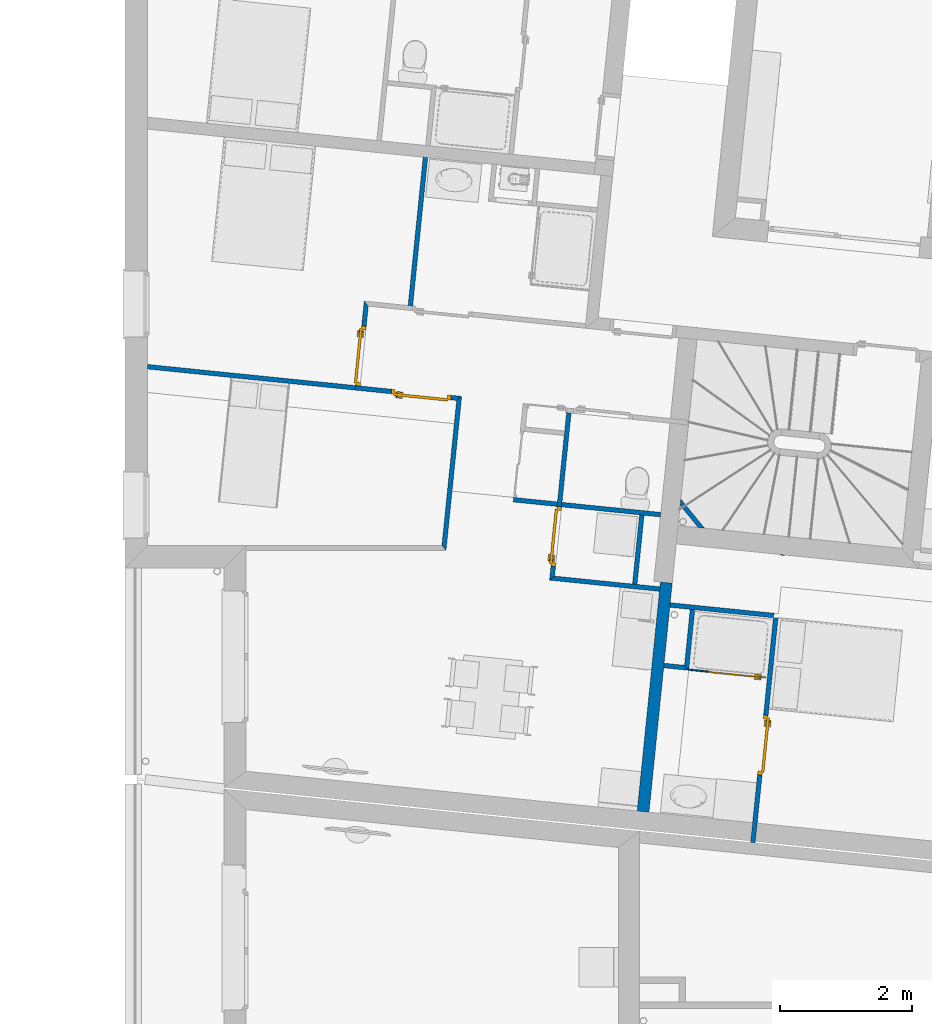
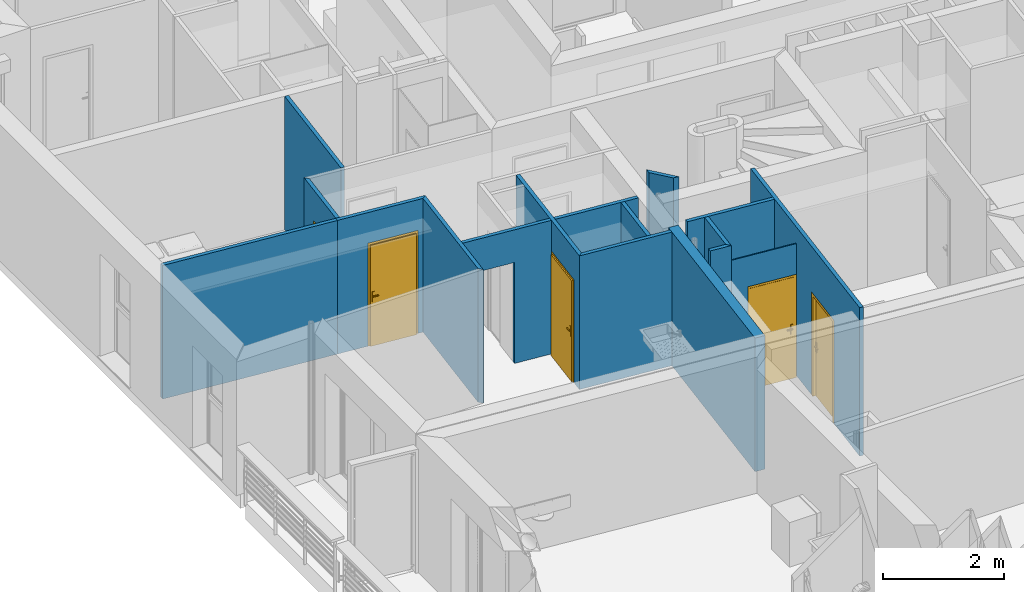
# One storey, part 63 of 171: 16 walls, 5 doors, 7 openings.
"""IFC2X3 building model written with IfcOpenShell, lengths in millimetres."""

from ifc_helpers import new_model, entity, si_unit, converted_unit, derived_unit, money_unit, direction, frame, origin_with_axes, origin_2d_with_axis, place, context, subcontext, project, spatial, polyline, rectangle, outline, extrude, faceted_brep, source, transform, mapped, material, layer, layer_set, layer_usage, type_object, element, fill, save


model = new_model("IFC2X3")

# Units and contexts
model_context = context("Model", 3, precision=0.01, world=origin_with_axes(), true_north=direction((0.0, 1.0)))
body_context = subcontext(model_context, "Body", "Model", "MODEL_VIEW")
ifc_project = project(units=[si_unit("LENGTHUNIT", "METRE", prefix="MILLI"), si_unit("AREAUNIT", "SQUARE_METRE"), si_unit("VOLUMEUNIT", "CUBIC_METRE"), converted_unit("PLANEANGLEUNIT", "DEGREE", entity("IfcPlaneAngleMeasure", 0.0174532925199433), si_unit("PLANEANGLEUNIT", "RADIAN"), dimensions=[0, 0, 0, 0, 0, 0, 0]), money_unit("USD"), converted_unit("TIMEUNIT", "Year", entity("IfcTimeMeasure", 31557600.0), si_unit("TIMEUNIT", "SECOND"), dimensions=[0, 0, 1, 0, 0, 0, 0]), si_unit("MASSUNIT", "GRAM", prefix="KILO"), si_unit("THERMODYNAMICTEMPERATUREUNIT", "DEGREE_CELSIUS"), si_unit("LUMINOUSINTENSITYUNIT", "LUMEN"), si_unit("ENERGYUNIT", "JOULE", prefix="MEGA"), derived_unit("THERMALCONDUCTANCEUNIT", [(si_unit("POWERUNIT", "WATT"), 1), (si_unit("LENGTHUNIT", "METRE"), -1), (si_unit("THERMODYNAMICTEMPERATUREUNIT", "KELVIN"), -1)]), derived_unit("SPECIFICHEATCAPACITYUNIT", [(si_unit("ENERGYUNIT", "JOULE"), 1), (si_unit("MASSUNIT", "GRAM", prefix="KILO"), -1), (si_unit("THERMODYNAMICTEMPERATUREUNIT", "KELVIN"), -1)]), derived_unit("MASSDENSITYUNIT", [(si_unit("MASSUNIT", "GRAM", prefix="KILO"), 1), (si_unit("VOLUMEUNIT", "CUBIC_METRE"), -1)])], contexts=[model_context])

# Site, building, storey
site_placement = place(None, origin_with_axes())
site = spatial("IfcSite", under=ifc_project, at=site_placement, Name="Site", CompositionType="ELEMENT")
building_placement = place(site_placement, origin_with_axes())
building = spatial("IfcBuilding", under=site, at=building_placement, Name="Bâtiment", CompositionType="ELEMENT")
storey_placement = place(building_placement, frame((0.0, 0.0, 3000.0), z_axis=(0.0, 0.0, 1.0), x_axis=(1.0, 0.0, 0.0)))
storey = spatial("IfcBuildingStorey", under=building, at=storey_placement, Name="rdc", CompositionType="ELEMENT", Elevation=3000.0)

# Walls
ifc_material_1 = material(Name="Parpaing 314940890")
ifc_layer_1 = layer(ifc_material_1, 180.0, ventilated="UNKNOWN")
ifc_layer_set_1 = layer_set([ifc_layer_1], Name="Beton  18 0018356637")
ifc_layer_usage_1 = layer_usage(ifc_layer_set_1, "AXIS2", "NEGATIVE", 0.0)
wall_type_1 = type_object("IfcWallType", Name="Beton  18 0018356637 180", PredefinedType="NOTDEFINED")
wall_1_placement = place(storey_placement, frame((2224947.557102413, -617737.4082418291, 0.0), z_axis=(0.0, 0.0, 1.0), x_axis=(-0.1008361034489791, -0.9949030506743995, 0.0)))
element("IfcWallStandardCase", 1, at=wall_1_placement, inside=storey, type_object=wall_type_1, material=ifc_layer_usage_1, Name="Mur-143", context=body_context, shape_type="SweptSolid", body=[
    extrude(outline(polyline([(-0.04756374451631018, -180.0000000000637), (3497.281373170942, -180.0000000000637), (3497.329701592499, 1.13686837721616e-10), (0.0, 0.0), (-0.04756374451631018, -180.0000000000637)])), origin_with_axes(), (0.0, 0.0, 1.0), 2700.0),
])
ifc_material_2 = material(Name="Hachure solide 268963992")
ifc_layer_2 = layer(ifc_material_2, 70.0, ventilated="UNKNOWN")
ifc_layer_set_2 = layer_set([ifc_layer_2], Name="Cloison 70 0826278243")
ifc_layer_usage_2 = layer_usage(ifc_layer_set_2, "AXIS2", "POSITIVE", -70.0)
wall_type_2 = type_object("IfcWallType", Name="Cloison 70 0826278243 70", PredefinedType="NOTDEFINED")
wall_2_placement = place(storey_placement, frame((2221749.216305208, -614898.6216634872, 0.0), z_axis=(0.0, 0.0, 1.0), x_axis=(-0.1011731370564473, -0.9948688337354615, 0.0)))
element("IfcWallStandardCase", 2, at=wall_2_placement, inside=storey, type_object=wall_type_2, material=ifc_layer_usage_2, Name="Mur-149", context=body_context, shape_type="SweptSolid", body=[
    extrude(outline(polyline([(70.0000000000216, -69.99999999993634), (2287.704858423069, -69.99999999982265), (2350.947246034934, 0.0), (0.0, 0.0), (70.0000000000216, -69.99999999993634)])), origin_with_axes(), (0.0, 0.0, 1.0), 2700.0),
])

# Wall, opening
ifc_layer_usage_3 = layer_usage(ifc_layer_set_2, "AXIS2", "NEGATIVE", 70.0)
wall_3_placement = place(storey_placement, frame((2225054.287823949, -616689.8643712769, 0.0), z_axis=(0.0, 0.0, 1.0), x_axis=(-0.9948759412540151, 0.1011032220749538, 0.0)))
wall_3 = element("IfcWallStandardCase", 3, at=wall_3_placement, inside=storey, type_object=wall_type_2, material=ifc_layer_usage_3, Name="Mur-149", context=body_context, shape_type="SweptSolid", body=[
    extrude(outline(polyline([(280.0000094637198, 0.0), (3469.338299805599, 0.0), (3469.343219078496, 70.00000000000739), (280.0182091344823, 69.99999999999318), (280.0000094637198, 0.0)])), origin_with_axes(), (0.0, 0.0, 1.0), 2700.0),
])
opening_1_placement = place(wall_3_placement, frame((2999.298933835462, 0.0, 0.0), z_axis=(0.0, 0.0, 1.0), x_axis=(1.0, 0.0, 0.0)))
element("IfcOpeningElement", 4, at=opening_1_placement, cuts=wall_3, Name="Por-280", context=body_context, shape_type="SweptSolid", body=[
    extrude(rectangle(XDim=940.0787319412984, YDim=2040.0, at=origin_2d_with_axis()), frame((0.0, 70.0000000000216, 1020.0), z_axis=(0.0, -1.0, 0.0), x_axis=(1.0, 0.0, 0.0)), (0.0, 0.0, -1.0), 70.0),
    extrude(rectangle(XDim=940.0787319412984, YDim=2040.0, at=origin_2d_with_axis()), frame((0.0, 70.0000000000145, 1020.0), z_axis=(0.0, 1.0, 0.0), x_axis=(1.0, 0.0, 0.0)), (0.0, 0.0, -1.0), 70.0),
])

# Wall, opening, door
ifc_layer_usage_4 = layer_usage(ifc_layer_set_2, "AXIS2", "NEGATIVE", 70.0)
wall_4_placement = place(storey_placement, frame((2221749.216305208, -614898.6216634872, 0.0), z_axis=(0.0, 0.0, 1.0), x_axis=(-0.99486883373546, 0.1011731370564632, 0.0)))
wall_4 = element("IfcWallStandardCase", 5, at=wall_4_placement, inside=storey, type_object=wall_type_2, material=ifc_layer_usage_4, Name="Mur-149", context=body_context, shape_type="SweptSolid", body=[
    extrude(outline(polyline([(-2.273736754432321e-10, 0.0), (1620.329559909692, 0.0), (1620.329559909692, 69.99999999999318), (69.99999999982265, 70.00000000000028), (-2.273736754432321e-10, 0.0)])), origin_with_axes(), (0.0, 0.0, 1.0), 2700.0),
])
opening_2_placement = place(wall_4_placement, frame((615.2185061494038, 0.0, 0.0), z_axis=(0.0, 0.0, 1.0), x_axis=(1.0, 0.0, 0.0)))
opening_2 = element("IfcOpeningElement", 6, at=opening_2_placement, cuts=wall_4, Name="Por-280", context=body_context, shape_type="SweptSolid", body=[
    extrude(rectangle(XDim=910.0000000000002, YDim=2080.0, at=origin_2d_with_axis()), frame((0.0, -70.00000000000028, 1040.0), z_axis=(0.0, -1.0, 0.0), x_axis=(-1.0, 0.0, 0.0)), (0.0, 0.0, -1.0), 140.0),
])
door_style = type_object("IfcDoorStyle", Name="Porte_1v", ConstructionType="NOTDEFINED", OperationType="NOTDEFINED", ParameterTakesPrecedence=False, Sizeable=False)
shared_shape_1 = source(origin_with_axes(), body_context, "Body", "Brep", [
    faceted_brep([(-454.9999999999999, 0.0, 0.0), (-454.9999999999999, 0.0, 2080.0), (454.9999999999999, 0.0, 2080.0), (454.9999999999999, 0.0, 0.0), (414.9999999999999, 0.0, 0.0), (414.9999999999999, 0.0, 2040.0), (-414.9999999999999, 0.0, 2040.0), (-414.9999999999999, 0.0, 0.0), (-454.9999999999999, -69.99999999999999, 0.0), (-454.9999999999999, -69.99999999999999, 2080.0), (454.9999999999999, -69.99999999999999, 2080.0), (454.9999999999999, -69.99999999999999, 0.0), (399.9999999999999, -69.99999999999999, 0.0), (399.9999999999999, -15.0, 0.0), (414.9999999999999, -15.0, 0.0), (414.9999999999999, -15.0, 2040.0), (-414.9999999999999, -14.99999999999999, 2040.0), (-414.9999999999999, -14.99999999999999, 0.0), (-399.9999999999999, -14.99999999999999, 0.0), (-399.9999999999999, -69.99999999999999, 0.0), (-399.9999999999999, -69.99999999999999, 2025.0), (399.9999999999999, -69.99999999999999, 2025.0), (399.9999999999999, -15.0, 2025.0), (-399.9999999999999, -14.99999999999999, 2025.0)], [[[0, 1, 2, 3, 4, 5, 6, 7]], [[8, 9, 1, 0]], [[9, 10, 2, 1]], [[10, 11, 3, 2]], [[3, 11, 12, 13, 14, 4]], [[5, 4, 14, 15]], [[6, 5, 15, 16]], [[7, 6, 16, 17]], [[0, 7, 17, 18, 19, 8]], [[19, 20, 21, 12, 11, 10, 9, 8]], [[22, 13, 12, 21]], [[17, 16, 15, 14, 13, 22, 23, 18]], [[18, 23, 20, 19]], [[23, 22, 21, 20]]]),
    faceted_brep([(350.0, -15.0, 900.0), (350.0, -15.0, 1100.0), (389.9999999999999, -15.0, 1100.0), (389.9999999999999, -15.0, 900.0), (350.0, -25.0, 900.0), (350.0, -25.0, 1100.0), (389.9999999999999, -25.0, 1100.0), (389.9999999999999, -25.0, 900.0)], [[[0, 1, 2, 3]], [[0, 4, 5, 1]], [[1, 5, 6, 2]], [[2, 6, 7, 3]], [[3, 7, 4, 0]], [[7, 6, 5, 4]]]),
    faceted_brep([(279.9999999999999, -25.0, 1000.0), (279.9999999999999, -25.0, 1020.0), (379.9999999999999, -25.0, 1020.0), (379.9999999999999, -25.0, 1000.0), (279.9999999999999, -45.0, 1000.0), (279.9999999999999, -45.0, 1020.0), (379.9999999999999, -45.0, 1020.0), (379.9999999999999, -45.0, 1000.0)], [[[0, 1, 2, 3]], [[0, 4, 5, 1]], [[1, 5, 6, 2]], [[2, 6, 7, 3]], [[3, 7, 4, 0]], [[7, 6, 5, 4]]]),
    faceted_brep([(350.0, 34.99999999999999, 900.0), (350.0, 34.99999999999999, 1100.0), (389.9999999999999, 34.99999999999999, 1100.0), (389.9999999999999, 34.99999999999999, 900.0), (350.0, 24.99999999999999, 900.0), (350.0, 24.99999999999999, 1100.0), (389.9999999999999, 24.99999999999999, 1100.0), (389.9999999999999, 24.99999999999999, 900.0)], [[[0, 1, 2, 3]], [[0, 4, 5, 1]], [[1, 5, 6, 2]], [[2, 6, 7, 3]], [[3, 7, 4, 0]], [[7, 6, 5, 4]]]),
    faceted_brep([(279.9999999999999, 54.99999999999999, 1000.0), (279.9999999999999, 54.99999999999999, 1020.0), (379.9999999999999, 54.99999999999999, 1020.0), (379.9999999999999, 54.99999999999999, 1000.0), (279.9999999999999, 34.99999999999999, 1000.0), (279.9999999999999, 34.99999999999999, 1020.0), (379.9999999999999, 34.99999999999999, 1020.0), (379.9999999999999, 34.99999999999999, 1000.0)], [[[0, 1, 2, 3]], [[0, 4, 5, 1]], [[1, 5, 6, 2]], [[2, 6, 7, 3]], [[3, 7, 4, 0]], [[7, 6, 5, 4]]]),
    faceted_brep([(414.9999999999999, 24.99999999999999, 0.0), (414.9999999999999, -15.0, 0.0), (-414.9999999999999, -14.99999999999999, 0.0), (-414.9999999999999, 25.0, 0.0), (414.9999999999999, 24.99999999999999, 2040.0), (414.9999999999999, -15.0, 2040.0), (-414.9999999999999, -14.99999999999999, 2040.0), (-414.9999999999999, 25.0, 2040.0)], [[[0, 1, 2, 3]], [[4, 5, 1, 0]], [[1, 5, 6, 2]], [[3, 2, 6, 7]], [[0, 3, 7, 4]], [[7, 6, 5, 4]]]),
])
door_1_placement = place(opening_2_placement, frame((-415.0000000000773, 0.0, 0.0), z_axis=(0.0, 0.0, 1.0), x_axis=(1.0, 0.0, 0.0)))
door_1 = element("IfcDoor", 7, at=door_1_placement, inside=storey, type_object=door_style, Name="Por-280", OverallHeight=2040.0, OverallWidth=830.0, context=body_context, shape_type="MappedRepresentation", body=[
    mapped(shared_shape_1, transform((415.0000000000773, 70.00000000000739, 0.0))),
])
fill(opening_2, door_1)

ifc_layer_usage_5 = layer_usage(ifc_layer_set_2, "AXIS2", "POSITIVE", -70.0)
wall_5_placement = place(storey_placement, frame((2223419.086359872, -615083.2193073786, 0.0), z_axis=(0.0, 0.0, 1.0), x_axis=(-0.1011032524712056, -0.9948759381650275, 0.0)))
wall_5 = element("IfcWallStandardCase", 8, at=wall_5_placement, inside=storey, type_object=wall_type_2, material=ifc_layer_usage_5, Name="Mur-149", context=body_context, shape_type="SweptSolid", body=[
    extrude(outline(polyline([(70.00000213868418, -70.00000000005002), (2629.231776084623, -70.00000000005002), (2559.231773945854, 0.0), (70.00000000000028, 0.0), (70.00000213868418, -70.00000000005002)])), origin_with_axes(), (0.0, 0.0, 1.0), 2700.0),
])
opening_3_placement = place(wall_5_placement, frame((1958.088383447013, 2.273736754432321e-10, 0.0), z_axis=(0.0, 0.0, 1.0), x_axis=(1.0, 0.0, 0.0)))
opening_3 = element("IfcOpeningElement", 9, at=opening_3_placement, cuts=wall_5, Name="Por-278", context=body_context, shape_type="SweptSolid", body=[
    extrude(rectangle(XDim=910.0, YDim=2080.0, at=origin_2d_with_axis()), frame((0.0, 70.00000000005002, 1040.0), z_axis=(0.0, -1.0, 0.0), x_axis=(-1.0, 0.0, 0.0)), (0.0, 0.0, 1.0), 140.0),
])
shared_shape_2 = source(origin_with_axes(), body_context, "Body", "Brep", [
    faceted_brep([(455.0, 0.0, 0.0), (415.0000000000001, 0.0, 0.0), (415.0000000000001, 0.0, 2040.0), (-415.0000000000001, 0.0, 2040.0), (-415.0000000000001, 0.0, 0.0), (-455.0, 0.0, 0.0), (-455.0, 0.0, 2080.0), (455.0, 0.0, 2080.0), (455.0, -70.0, 0.0), (400.0, -70.0, 0.0), (400.0, -15.0, 0.0), (415.0000000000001, -15.0, 0.0), (415.0000000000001, -15.0, 2040.0), (-415.0000000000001, -15.0, 2040.0), (-415.0000000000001, -15.0, 0.0), (-400.0, -15.0, 0.0), (-400.0, -70.0, 0.0), (-455.0, -70.0, 0.0), (-455.0, -70.0, 2080.0), (455.0, -70.0, 2080.0), (-400.0, -70.0, 2025.0), (400.0, -70.0, 2025.0), (400.0, -15.0, 2025.0), (-400.0, -15.0, 2025.0)], [[[0, 1, 2, 3, 4, 5, 6, 7]], [[0, 8, 9, 10, 11, 1]], [[1, 11, 12, 2]], [[2, 12, 13, 3]], [[3, 13, 14, 4]], [[5, 4, 14, 15, 16, 17]], [[18, 6, 5, 17]], [[19, 7, 6, 18]], [[8, 0, 7, 19]], [[9, 8, 19, 18, 17, 16, 20, 21]], [[10, 9, 21, 22]], [[11, 10, 22, 23, 15, 14, 13, 12]], [[23, 20, 16, 15]], [[22, 21, 20, 23]]]),
    faceted_brep([(-350.0000000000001, -15.0, 900.0), (-390.0, -15.0, 900.0), (-390.0, -15.0, 1100.0), (-350.0000000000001, -15.0, 1100.0), (-350.0000000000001, -25.0, 900.0), (-390.0, -25.0, 900.0), (-390.0, -25.0, 1100.0), (-350.0000000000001, -25.0, 1100.0)], [[[0, 1, 2, 3]], [[1, 0, 4, 5]], [[2, 1, 5, 6]], [[3, 2, 6, 7]], [[0, 3, 7, 4]], [[5, 4, 7, 6]]]),
    faceted_brep([(-280.0, -25.0, 1000.0), (-380.0, -25.0, 1000.0), (-380.0, -25.0, 1020.0), (-280.0, -25.0, 1020.0), (-280.0, -45.0, 1000.0), (-380.0, -45.0, 1000.0), (-380.0, -45.0, 1020.0), (-280.0, -45.0, 1020.0)], [[[0, 1, 2, 3]], [[1, 0, 4, 5]], [[2, 1, 5, 6]], [[3, 2, 6, 7]], [[0, 3, 7, 4]], [[5, 4, 7, 6]]]),
    faceted_brep([(-350.0000000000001, 35.0, 900.0), (-390.0, 35.0, 900.0), (-390.0, 35.0, 1100.0), (-350.0000000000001, 35.0, 1100.0), (-350.0000000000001, 25.0, 900.0), (-390.0, 25.0, 900.0), (-390.0, 25.0, 1100.0), (-350.0000000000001, 25.0, 1100.0)], [[[0, 1, 2, 3]], [[1, 0, 4, 5]], [[2, 1, 5, 6]], [[3, 2, 6, 7]], [[0, 3, 7, 4]], [[5, 4, 7, 6]]]),
    faceted_brep([(-280.0, 55.00000000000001, 1000.0), (-380.0, 55.00000000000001, 1000.0), (-380.0, 55.00000000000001, 1020.0), (-280.0, 55.00000000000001, 1020.0), (-280.0, 35.0, 1000.0), (-380.0, 35.0, 1000.0), (-380.0, 35.0, 1020.0), (-280.0, 35.0, 1020.0)], [[[0, 1, 2, 3]], [[1, 0, 4, 5]], [[2, 1, 5, 6]], [[3, 2, 6, 7]], [[0, 3, 7, 4]], [[5, 4, 7, 6]]]),
    faceted_brep([(-415.0000000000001, 25.0, 0.0), (415.0000000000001, 25.0, 0.0), (415.0000000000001, -15.0, 0.0), (-415.0000000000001, -15.0, 0.0), (-415.0000000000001, 25.0, 2040.0), (415.0000000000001, 25.0, 2040.0), (415.0000000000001, -15.0, 2040.0), (-415.0000000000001, -15.0, 2040.0)], [[[0, 1, 2, 3]], [[0, 4, 5, 1]], [[1, 5, 6, 2]], [[3, 2, 6, 7]], [[4, 0, 3, 7]], [[5, 4, 7, 6]]]),
])
door_2_placement = place(opening_3_placement, frame((414.9999999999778, 1.13686837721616e-10, 0.0), z_axis=(0.0, 0.0, 1.0), x_axis=(-1.0, 0.0, 0.0)))
door_2 = element("IfcDoor", 10, at=door_2_placement, inside=storey, type_object=door_style, Name="Por-278", OverallHeight=2040.0, OverallWidth=830.0, context=body_context, shape_type="MappedRepresentation", body=[
    mapped(shared_shape_2, transform((414.9999999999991, 70.00000000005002, 0.0))),
])
fill(opening_3, door_2)

# Walls
ifc_layer_usage_6 = layer_usage(ifc_layer_set_2, "AXIS2", "NEGATIVE", 70.0)
wall_6_placement = place(storey_placement, frame((2223153.262476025, -617698.9787351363, 0.0), z_axis=(0.0, 0.0, 1.0), x_axis=(0.9948759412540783, -0.1011032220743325, 0.0)))
element("IfcWallStandardCase", 11, at=wall_6_placement, inside=storey, type_object=wall_type_2, material=ifc_layer_usage_6, Name="Mur-149", context=body_context, shape_type="SweptSolid", body=[
    extrude(outline(polyline([(-69.99999999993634, 0.0), (1610.000000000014, 0.0), (1610.000000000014, 69.99999999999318), (2.138676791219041e-06, 70.00000000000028), (-69.99999999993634, 0.0)])), origin_with_axes(), (0.0, 0.0, 1.0), 2700.0),
])
ifc_layer_usage_7 = layer_usage(ifc_layer_set_2, "AXIS2", "POSITIVE", -70.0)
wall_7_placement = place(storey_placement, frame((2224527.449298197, -616636.3249597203, 0.0), z_axis=(0.0, 0.0, 1.0), x_axis=(-0.1011032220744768, -0.9948759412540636, 0.0)))
element("IfcWallStandardCase", 12, at=wall_7_placement, inside=storey, type_object=wall_type_2, material=ifc_layer_usage_7, Name="Mur-149", context=body_context, shape_type="SweptSolid", body=[
    extrude(outline(polyline([(69.99999999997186, -70.00000000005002), (1126.143390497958, -70.00000000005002), (1126.143390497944, 0.0), (69.99999999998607, 0.0), (69.99999999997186, -70.00000000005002)])), origin_with_axes(), (0.0, 0.0, 1.0), 2700.0),
])
ifc_layer_usage_8 = layer_usage(ifc_layer_set_2, "AXIS2", "NEGATIVE", 70.0)
wall_8_placement = place(storey_placement, frame((2220206.841775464, -614741.7699495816, 0.0), z_axis=(0.0, 0.0, 1.0), x_axis=(-0.9948688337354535, 0.101173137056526, 0.0)))
element("IfcWallStandardCase", 13, at=wall_8_placement, inside=storey, type_object=wall_type_2, material=ifc_layer_usage_8, Name="Mur-149", context=body_context, shape_type="SweptSolid", body=[
    extrude(outline(polyline([(0.0, 0.0), (3249.281031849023, 0.0), (3242.162385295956, 70.00000000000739), (0.0, 70.00000000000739), (0.0, 0.0)])), origin_with_axes(), (0.0, 0.0, 1.0), 2700.0),
])
ifc_layer_usage_9 = layer_usage(ifc_layer_set_2, "AXIS2", "POSITIVE", -70.0)
wall_9_placement = place(storey_placement, frame((2225197.373814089, -619061.3382015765, 0.0), z_axis=(0.0, 0.0, 1.0), x_axis=(-0.9949260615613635, 0.1006088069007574, 0.0)))
element("IfcWallStandardCase", 14, at=wall_9_placement, inside=storey, type_object=wall_type_2, material=ifc_layer_usage_9, Name="Mur-149", context=body_context, shape_type="SweptSolid", body=[
    extrude(outline(polyline([(70.00452475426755, -70.00000000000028), (382.1642703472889, -70.00000000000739), (382.1642703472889, 0.0), (0.0, 0.0), (70.00452475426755, -70.00000000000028)])), origin_with_axes(), (0.0, 0.0, 1.0), 3000.0),
])

# Wall, opening, door
ifc_layer_usage_10 = layer_usage(ifc_layer_set_2, "AXIS2", "POSITIVE", -70.0)
wall_10_placement = place(storey_placement, frame((2220330.272971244, -613528.0299812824, 0.0), z_axis=(0.0, 0.0, 1.0), x_axis=(-0.1011731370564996, -0.9948688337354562, 0.0)))
wall_10 = element("IfcWallStandardCase", 15, at=wall_10_placement, inside=storey, type_object=wall_type_2, material=ifc_layer_usage_10, Name="Mur-149", context=body_context, shape_type="SweptSolid", body=[
    extrude(outline(polyline([(-69.99997079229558, -69.99999999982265), (1219.99999999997, -69.99999999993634), (1219.999999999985, 1.13686837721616e-10), (0.0, 0.0), (-69.99997079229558, -69.99999999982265)])), origin_with_axes(), (0.0, 0.0, 1.0), 2700.0),
])
opening_4_placement = place(wall_10_placement, frame((764.9999880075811, 4.547473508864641e-10, 0.0), z_axis=(0.0, 0.0, 1.0), x_axis=(1.0, 0.0, 0.0)))
opening_4 = element("IfcOpeningElement", 16, at=opening_4_placement, cuts=wall_10, Name="Por-280", context=body_context, shape_type="SweptSolid", body=[
    extrude(rectangle(XDim=910.0, YDim=2080.0, at=origin_2d_with_axis()), frame((0.0, 69.99999999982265, 1040.0), z_axis=(0.0, 1.0, 0.0), x_axis=(1.0, 0.0, 0.0)), (0.0, 0.0, -1.0), 140.0),
])
door_3_placement = place(opening_4_placement, frame((415.0000000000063, 0.0, 0.0), z_axis=(0.0, 0.0, 1.0), x_axis=(-1.0, 0.0, 0.0)))
door_3 = element("IfcDoor", 17, at=door_3_placement, inside=storey, type_object=door_style, Name="Por-280", OverallHeight=2040.0, OverallWidth=830.0, context=body_context, shape_type="MappedRepresentation", body=[
    mapped(shared_shape_1, transform((414.9999999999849, 70.00000000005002, 0.0))),
])
fill(opening_4, door_3)

# Wall
ifc_layer_usage_11 = layer_usage(ifc_layer_set_2, "AXIS2", "POSITIVE", -70.0)
wall_11_placement = place(storey_placement, frame((2221233.223659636, -611271.329191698, 0.0), z_axis=(0.0, 0.0, 1.0), x_axis=(-0.1008288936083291, -0.9949037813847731, 0.0)))
element("IfcWallStandardCase", 18, at=wall_11_placement, inside=storey, type_object=wall_type_2, material=ifc_layer_usage_11, Name="Mur-149", context=body_context, shape_type="SweptSolid", body=[
    extrude(outline(polyline([(-0.01930162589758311, -69.99999999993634), (2266.451300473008, -69.99999999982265), (2266.475492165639, 1.13686837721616e-10), (1.158184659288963e-09, 0.0), (-0.01930162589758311, -69.99999999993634)])), origin_with_axes(), (0.0, 0.0, 1.0), 2700.0),
])

# Wall, openings, door
ifc_layer_usage_12 = layer_usage(ifc_layer_set_2, "AXIS2", "NEGATIVE", 0.0)
wall_12_placement = place(storey_placement, frame((2226681.357205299, -617029.0723209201, 0.0), z_axis=(0.0, 0.0, 1.0), x_axis=(-0.1010359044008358, -0.9948827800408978, 0.0)))
wall_12 = element("IfcWallStandardCase", 19, at=wall_12_placement, inside=storey, type_object=wall_type_2, material=ifc_layer_usage_12, Name="Mur-151", context=body_context, shape_type="SweptSolid", body=[
    extrude(outline(polyline([(279.9952641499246, -70.00000000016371), (4677.323989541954, -70.00000000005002), (4677.328726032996, -1.13686837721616e-10), (280.0000006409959, -1.13686837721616e-10), (279.9952641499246, -70.00000000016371)])), origin_with_axes(), (0.0, 0.0, 1.0), 3000.0),
])
opening_5_placement = place(wall_12_placement, frame((3187.25959144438, 0.0, 0.0), z_axis=(0.0, 0.0, 1.0), x_axis=(1.0, 0.0, 0.0)))
opening_5 = element("IfcOpeningElement", 20, at=opening_5_placement, cuts=wall_12, Name="Por-278", context=body_context, shape_type="SweptSolid", body=[
    extrude(rectangle(XDim=909.9999999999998, YDim=2080.0, at=origin_2d_with_axis()), frame((0.0, -70.00000000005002, 1040.0), z_axis=(0.0, 1.0, 0.0), x_axis=(1.0, 0.0, 0.0)), (0.0, 0.0, 1.0), 140.0),
])
opening_6_placement = place(wall_12_placement, frame((768.2137305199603, 0.0, 0.0), z_axis=(0.0, 0.0, 1.0), x_axis=(1.0, 0.0, 0.0)))
element("IfcOpeningElement", 21, at=opening_6_placement, cuts=wall_12, Name="Por-278", context=body_context, shape_type="SweptSolid", body=[
    extrude(rectangle(XDim=957.9062576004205, YDim=2040.0, at=origin_2d_with_axis()), frame((0.0, 0.0, 1020.0), z_axis=(0.0, -1.0, 0.0), x_axis=(1.0, 0.0, 0.0)), (0.0, 0.0, -1.0), 70.0),
    extrude(rectangle(XDim=957.9062576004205, YDim=2040.0, at=origin_2d_with_axis()), frame((0.0, 0.0, 1020.0), z_axis=(0.0, 1.0, 0.0), x_axis=(1.0, 0.0, 0.0)), (0.0, 0.0, -1.0), 70.0),
])
door_4_placement = place(opening_5_placement, frame((-415.0000000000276, 2.273736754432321e-10, 0.0), z_axis=(0.0, 0.0, 1.0), x_axis=(1.0, 0.0, 0.0)))
door_4 = element("IfcDoor", 22, at=door_4_placement, inside=storey, type_object=door_style, Name="Por-278", OverallHeight=2040.0, OverallWidth=830.0, context=body_context, shape_type="MappedRepresentation", body=[
    mapped(shared_shape_2, transform((414.9999999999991, 0.0, 0.0))),
])
fill(opening_5, door_4)

# Walls
ifc_layer_usage_13 = layer_usage(ifc_layer_set_2, "AXIS2", "POSITIVE", -70.0)
wall_13_placement = place(storey_placement, frame((2225290.279773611, -618141.9923718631, 0.0), z_axis=(0.0, 0.0, 1.0), x_axis=(-0.1005444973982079, -0.9949325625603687, 0.0)))
element("IfcWallStandardCase", 23, at=wall_13_placement, inside=storey, type_object=wall_type_2, material=ifc_layer_usage_13, Name="Mur-149", context=body_context, shape_type="SweptSolid", body=[
    extrude(outline(polyline([(-0.0008416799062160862, -69.99999999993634), (854.0237604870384, -70.00000000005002), (924.0282852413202, 0.0), (0.0002525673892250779, 1.13686837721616e-10), (-0.0008416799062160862, -69.99999999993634)])), origin_with_axes(), (0.0, 0.0, 1.0), 3000.0),
])
ifc_layer_usage_14 = layer_usage(ifc_layer_set_2, "AXIS2", "POSITIVE", -70.0)
wall_14_placement = place(storey_placement, frame((2226555.351172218, -618269.8564118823, 0.0), z_axis=(0.0, 0.0, 1.0), x_axis=(-0.9949309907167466, 0.1005600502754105, 0.0)))
element("IfcWallStandardCase", 24, at=wall_14_placement, inside=storey, type_object=wall_type_2, material=ifc_layer_usage_14, Name="Mur-149", context=body_context, shape_type="SweptSolid", body=[
    extrude(outline(polyline([(69.96903800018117, -70.00000000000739), (1653.162112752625, -70.00000000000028), (1653.162112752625, 0.0), (70.0025183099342, 0.0), (69.96903800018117, -70.00000000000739)])), origin_with_axes(), (0.0, 0.0, 1.0), 3000.0),
])
ifc_material_3 = material(Name="Hachure solide 269229667")
ifc_layer_3 = layer(ifc_material_3, 70.0, ventilated="UNKNOWN")
ifc_layer_set_3 = layer_set([ifc_layer_3], Name="Cloison 70 0836576958")
ifc_layer_usage_15 = layer_usage(ifc_layer_set_3, "AXIS2", "NEGATIVE", 0.0)
wall_type_3 = type_object("IfcWallType", Name="Cloison 70 0836576958 70", PredefinedType="NOTDEFINED")
wall_15_placement = place(storey_placement, frame((2225342.902009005, -616893.0532180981, 0.0), z_axis=(0.0, 0.0, 1.0), x_axis=(-0.631992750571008, 0.7749742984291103, 0.0)))
element("IfcWallStandardCase", 25, at=wall_15_placement, inside=storey, type_object=wall_type_3, material=ifc_layer_usage_15, Name="Mur-148", context=body_context, shape_type="SweptSolid", body=[
    extrude(outline(polyline([(-70.00000000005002, -70.00000000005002), (505.0369955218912, -70.00000000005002), (435.07338540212, 0.0), (0.0, -1.13686837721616e-10), (-70.00000000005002, -70.00000000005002)])), origin_with_axes(), (0.0, 0.0, 1.0), 3000.0),
])

# Wall, opening, door
ifc_material_4 = material(Name="Empty Fill 292498448")
ifc_layer_4 = layer(ifc_material_4, 20.0, ventilated="UNKNOWN")
ifc_layer_set_4 = layer_set([ifc_layer_4], Name="mur 2cm")
ifc_layer_usage_16 = layer_usage(ifc_layer_set_4, "AXIS2", "POSITIVE", -20.0)
wall_type_4 = type_object("IfcWallType", Name="mur 2cm 20", PredefinedType="NOTDEFINED")
wall_16_placement = place(storey_placement, frame((2226371.512134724, -619179.9124765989, 0.0), z_axis=(0.0, 0.0, 1.0), x_axis=(-0.9949393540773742, 0.1004772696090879, 0.0)))
wall_16 = element("IfcWallStandardCase", 26, at=wall_16_placement, inside=storey, type_object=wall_type_4, material=ifc_layer_usage_16, Name="Mur-148", context=body_context, shape_type="SweptSolid", body=[
    extrude(outline(polyline([(0.0, -19.99999999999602), (1180.109090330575, -19.99999999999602), (1180.110441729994, 0.0), (0.0, 0.0), (0.0, -19.99999999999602)])), origin_with_axes(), (0.0, 0.0, 1.0), 2700.0),
])
opening_7_placement = place(wall_16_placement, frame((439.9999999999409, 0.0, 0.0), z_axis=(0.0, 0.0, 1.0), x_axis=(1.0, 0.0, 0.0)))
opening_7 = element("IfcOpeningElement", 27, at=opening_7_placement, cuts=wall_16, Name="Por-288", context=body_context, shape_type="SweptSolid", body=[
    extrude(rectangle(XDim=880.0000119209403, YDim=2080.0, at=origin_2d_with_axis()), frame((5.960373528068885e-06, -20.00000000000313, 1040.0), z_axis=(0.0, 1.0, 0.0), x_axis=(1.0, 0.0, 0.0)), (0.0, 0.0, 1.0), 40.0),
])
shared_shape_3 = source(origin_with_axes(), body_context, "Body", "Brep", [
    faceted_brep([(440.0, 0.0, 0.0), (400.0, 0.0, 0.0), (400.0, 0.0, 2040.0), (-400.0, 0.0, 2040.0), (-400.0, 0.0, 0.0), (-440.0, 0.0, 0.0), (-440.0, 0.0, 2080.0), (440.0, 0.0, 2080.0), (440.0, -20.0, 0.0), (385.0, -20.0, 0.0), (385.0, -15.0, 0.0), (400.0, -15.0, 0.0), (400.0, -15.0, 2040.0), (-400.0, -15.0, 2040.0), (-400.0, -15.0, 0.0), (-385.0, -15.0, 0.0), (-385.0, -20.0, 0.0), (-440.0, -20.0, 0.0), (-440.0, -20.0, 2080.0), (440.0, -20.0, 2080.0), (-385.0, -20.0, 2025.0), (385.0, -20.0, 2025.0), (385.0, -15.0, 2025.0), (-385.0, -15.0, 2025.0)], [[[0, 1, 2, 3, 4, 5, 6, 7]], [[0, 8, 9, 10, 11, 1]], [[1, 11, 12, 2]], [[2, 12, 13, 3]], [[3, 13, 14, 4]], [[5, 4, 14, 15, 16, 17]], [[18, 6, 5, 17]], [[19, 7, 6, 18]], [[8, 0, 7, 19]], [[9, 8, 19, 18, 17, 16, 20, 21]], [[10, 9, 21, 22]], [[11, 10, 22, 23, 15, 14, 13, 12]], [[23, 20, 16, 15]], [[22, 21, 20, 23]]]),
    faceted_brep([(-335.0, -15.0, 900.0), (-375.0, -15.0, 900.0), (-375.0, -15.0, 1100.0), (-335.0, -15.0, 1100.0), (-335.0, -25.0, 900.0), (-375.0, -25.0, 900.0), (-375.0, -25.0, 1100.0), (-335.0, -25.0, 1100.0)], [[[0, 1, 2, 3]], [[1, 0, 4, 5]], [[2, 1, 5, 6]], [[3, 2, 6, 7]], [[0, 3, 7, 4]], [[5, 4, 7, 6]]]),
    faceted_brep([(-265.0, -25.0, 1000.0), (-365.0, -25.0, 1000.0), (-365.0, -25.0, 1020.0), (-265.0, -25.0, 1020.0), (-265.0, -45.0, 1000.0), (-365.0, -45.0, 1000.0), (-365.0, -45.0, 1020.0), (-265.0, -45.0, 1020.0)], [[[0, 1, 2, 3]], [[1, 0, 4, 5]], [[2, 1, 5, 6]], [[3, 2, 6, 7]], [[0, 3, 7, 4]], [[5, 4, 7, 6]]]),
    faceted_brep([(-335.0, 15.0, 900.0), (-375.0, 15.0, 900.0), (-375.0, 15.0, 1100.0), (-335.0, 15.0, 1100.0), (-335.0, 5.000000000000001, 900.0), (-375.0, 5.000000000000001, 900.0), (-375.0, 5.000000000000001, 1100.0), (-335.0, 5.000000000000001, 1100.0)], [[[0, 1, 2, 3]], [[1, 0, 4, 5]], [[2, 1, 5, 6]], [[3, 2, 6, 7]], [[0, 3, 7, 4]], [[5, 4, 7, 6]]]),
    faceted_brep([(-265.0, 35.0, 1000.0), (-365.0, 35.0, 1000.0), (-365.0, 35.0, 1020.0), (-265.0, 35.0, 1020.0), (-265.0, 15.0, 1000.0), (-365.0, 15.0, 1000.0), (-365.0, 15.0, 1020.0), (-265.0, 15.0, 1020.0)], [[[0, 1, 2, 3]], [[1, 0, 4, 5]], [[2, 1, 5, 6]], [[3, 2, 6, 7]], [[0, 3, 7, 4]], [[5, 4, 7, 6]]]),
    faceted_brep([(-400.0, 5.000000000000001, 0.0), (400.0, 5.000000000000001, 0.0), (400.0, -15.0, 0.0), (-400.0, -15.0, 0.0), (-400.0, 5.000000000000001, 2040.0), (400.0, 5.000000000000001, 2040.0), (400.0, -15.0, 2040.0), (-400.0, -15.0, 2040.0)], [[[0, 1, 2, 3]], [[0, 4, 5, 1]], [[1, 5, 6, 2]], [[3, 2, 6, 7]], [[4, 0, 3, 7]], [[5, 4, 7, 6]]]),
])
door_5_placement = place(opening_7_placement, frame((-399.9999999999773, 0.0, 0.0), z_axis=(0.0, 0.0, 1.0), x_axis=(1.0, 0.0, 0.0)))
door_5 = element("IfcDoor", 28, at=door_5_placement, inside=storey, type_object=door_style, Name="Por-288", OverallHeight=2040.0, OverallWidth=800.0, context=body_context, shape_type="MappedRepresentation", body=[
    mapped(shared_shape_3, transform((399.9999999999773, 0.0, 0.0))),
])
fill(opening_7, door_5)

save(model, "model.ifc")
